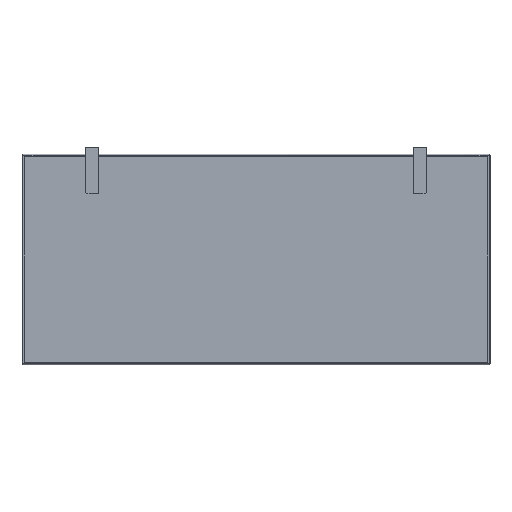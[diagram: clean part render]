
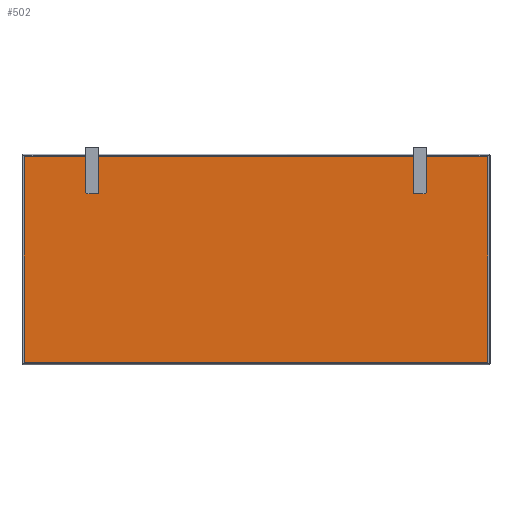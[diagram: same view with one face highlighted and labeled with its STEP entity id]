
A CAD part, top view. The second image highlights one B-rep face of the part: STEP entity #502.
In plain terms, the highlighted planar face has unit normal (0, 0, 1).
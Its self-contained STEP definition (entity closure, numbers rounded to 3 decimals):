
#355=PLANE('',#3506);
#502=ADVANCED_FACE('',(#764),#355,.T.);
#764=FACE_OUTER_BOUND('',#998,.T.);
#998=EDGE_LOOP('',(#1317,#1318,#1319,#1320,#1321,#1322,#1323,#1324,#1325,
#1326,#1327,#1328));
#1317=ORIENTED_EDGE('',*,*,#2281,.F.);
#1318=ORIENTED_EDGE('',*,*,#2278,.F.);
#1319=ORIENTED_EDGE('',*,*,#2270,.F.);
#1320=ORIENTED_EDGE('',*,*,#2305,.F.);
#1321=ORIENTED_EDGE('',*,*,#2286,.F.);
#1322=ORIENTED_EDGE('',*,*,#2306,.F.);
#1323=ORIENTED_EDGE('',*,*,#2268,.F.);
#1324=ORIENTED_EDGE('',*,*,#2307,.F.);
#1325=ORIENTED_EDGE('',*,*,#2290,.F.);
#1326=ORIENTED_EDGE('',*,*,#2308,.F.);
#1327=ORIENTED_EDGE('',*,*,#2276,.F.);
#1328=ORIENTED_EDGE('',*,*,#2284,.F.);
#2268=EDGE_CURVE('',#3106,#3103,#2786,.T.);
#2270=EDGE_CURVE('',#3108,#3109,#2788,.T.);
#2276=EDGE_CURVE('',#3114,#3111,#2794,.T.);
#2278=EDGE_CURVE('',#3109,#3116,#2796,.T.);
#2281=EDGE_CURVE('',#3116,#3118,#2799,.T.);
#2284=EDGE_CURVE('',#3118,#3114,#2802,.T.);
#2286=EDGE_CURVE('',#3120,#3121,#2804,.T.);
#2290=EDGE_CURVE('',#3124,#3125,#2808,.T.);
#2305=EDGE_CURVE('',#3121,#3108,#2815,.T.);
#2306=EDGE_CURVE('',#3103,#3120,#2816,.T.);
#2307=EDGE_CURVE('',#3125,#3106,#2817,.T.);
#2308=EDGE_CURVE('',#3111,#3124,#2818,.T.);
#2786=B_SPLINE_CURVE_WITH_KNOTS('',1,(#5177,#5178),.UNSPECIFIED.,.F.,.F.,
(2,2),(0.,679.4),.UNSPECIFIED.);
#2788=B_SPLINE_CURVE_WITH_KNOTS('',1,(#5181,#5182),.UNSPECIFIED.,.F.,.F.,
(2,2),(0.,134.7),.UNSPECIFIED.);
#2794=B_SPLINE_CURVE_WITH_KNOTS('',1,(#5193,#5194),.UNSPECIFIED.,.F.,.F.,
(2,2),(0.,134.7),.UNSPECIFIED.);
#2796=B_SPLINE_CURVE_WITH_KNOTS('',1,(#5197,#5198),.UNSPECIFIED.,.F.,.F.,
(2,2),(0.,440.),.UNSPECIFIED.);
#2799=B_SPLINE_CURVE_WITH_KNOTS('',1,(#5203,#5204),.UNSPECIFIED.,.F.,.F.,
(2,2),(0.,990.),.UNSPECIFIED.);
#2802=B_SPLINE_CURVE_WITH_KNOTS('',1,(#5209,#5210),.UNSPECIFIED.,.F.,.F.,
(2,2),(0.,440.),.UNSPECIFIED.);
#2804=B_SPLINE_CURVE_WITH_KNOTS('',1,(#5213,#5214),.UNSPECIFIED.,.F.,.F.,
(2,2),(0.,20.6),.UNSPECIFIED.);
#2808=B_SPLINE_CURVE_WITH_KNOTS('',1,(#5221,#5222),.UNSPECIFIED.,.F.,.F.,
(2,2),(0.,20.6),.UNSPECIFIED.);
#2815=B_SPLINE_CURVE_WITH_KNOTS('',1,(#5263,#5264),.UNSPECIFIED.,.F.,.F.,
(2,2),(0.,15.),.UNSPECIFIED.);
#2816=B_SPLINE_CURVE_WITH_KNOTS('',1,(#5265,#5266),.UNSPECIFIED.,.F.,.F.,
(2,2),(0.,15.),.UNSPECIFIED.);
#2817=B_SPLINE_CURVE_WITH_KNOTS('',1,(#5267,#5268),.UNSPECIFIED.,.F.,.F.,
(2,2),(0.,15.),.UNSPECIFIED.);
#2818=B_SPLINE_CURVE_WITH_KNOTS('',1,(#5269,#5270),.UNSPECIFIED.,.F.,.F.,
(2,2),(0.,15.),.UNSPECIFIED.);
#3103=VERTEX_POINT('',#5139);
#3106=VERTEX_POINT('',#5142);
#3108=VERTEX_POINT('',#5144);
#3109=VERTEX_POINT('',#5145);
#3111=VERTEX_POINT('',#5147);
#3114=VERTEX_POINT('',#5150);
#3116=VERTEX_POINT('',#5152);
#3118=VERTEX_POINT('',#5154);
#3120=VERTEX_POINT('',#5156);
#3121=VERTEX_POINT('',#5157);
#3124=VERTEX_POINT('',#5160);
#3125=VERTEX_POINT('',#5161);
#3506=AXIS2_PLACEMENT_3D('',#5136,#3683,$);
#3683=DIRECTION('',(0.,0.,1.));
#5136=CARTESIAN_POINT('',(7275.991,-3450.313,16.75));
#5139=CARTESIAN_POINT('',(8209.703,-2966.301,16.75));
#5142=CARTESIAN_POINT('',(7530.303,-2966.301,16.75));
#5144=CARTESIAN_POINT('',(8230.303,-2966.301,16.75));
#5145=CARTESIAN_POINT('',(8365.003,-2966.301,16.75));
#5147=CARTESIAN_POINT('',(7509.703,-2966.301,16.75));
#5150=CARTESIAN_POINT('',(7375.003,-2966.301,16.75));
#5152=CARTESIAN_POINT('',(8365.003,-3406.301,16.75));
#5154=CARTESIAN_POINT('',(7375.003,-3406.301,16.75));
#5156=CARTESIAN_POINT('',(8209.703,-2981.301,16.75));
#5157=CARTESIAN_POINT('',(8230.303,-2981.301,16.75));
#5160=CARTESIAN_POINT('',(7509.703,-2981.301,16.75));
#5161=CARTESIAN_POINT('',(7530.303,-2981.301,16.75));
#5177=CARTESIAN_POINT('',(7530.303,-2966.301,16.75));
#5178=CARTESIAN_POINT('',(8209.703,-2966.301,16.75));
#5181=CARTESIAN_POINT('',(8230.303,-2966.301,16.75));
#5182=CARTESIAN_POINT('',(8365.003,-2966.301,16.75));
#5193=CARTESIAN_POINT('',(7375.003,-2966.301,16.75));
#5194=CARTESIAN_POINT('',(7509.703,-2966.301,16.75));
#5197=CARTESIAN_POINT('',(8365.003,-2966.301,16.75));
#5198=CARTESIAN_POINT('',(8365.003,-3406.301,16.75));
#5203=CARTESIAN_POINT('',(8365.003,-3406.301,16.75));
#5204=CARTESIAN_POINT('',(7375.003,-3406.301,16.75));
#5209=CARTESIAN_POINT('',(7375.003,-3406.301,16.75));
#5210=CARTESIAN_POINT('',(7375.003,-2966.301,16.75));
#5213=CARTESIAN_POINT('',(8209.703,-2981.301,16.75));
#5214=CARTESIAN_POINT('',(8230.303,-2981.301,16.75));
#5221=CARTESIAN_POINT('',(7509.703,-2981.301,16.75));
#5222=CARTESIAN_POINT('',(7530.303,-2981.301,16.75));
#5263=CARTESIAN_POINT('',(8230.303,-2981.301,16.75));
#5264=CARTESIAN_POINT('',(8230.303,-2966.301,16.75));
#5265=CARTESIAN_POINT('',(8209.703,-2966.301,16.75));
#5266=CARTESIAN_POINT('',(8209.703,-2981.301,16.75));
#5267=CARTESIAN_POINT('',(7530.303,-2981.301,16.75));
#5268=CARTESIAN_POINT('',(7530.303,-2966.301,16.75));
#5269=CARTESIAN_POINT('',(7509.703,-2966.301,16.75));
#5270=CARTESIAN_POINT('',(7509.703,-2981.301,16.75));
